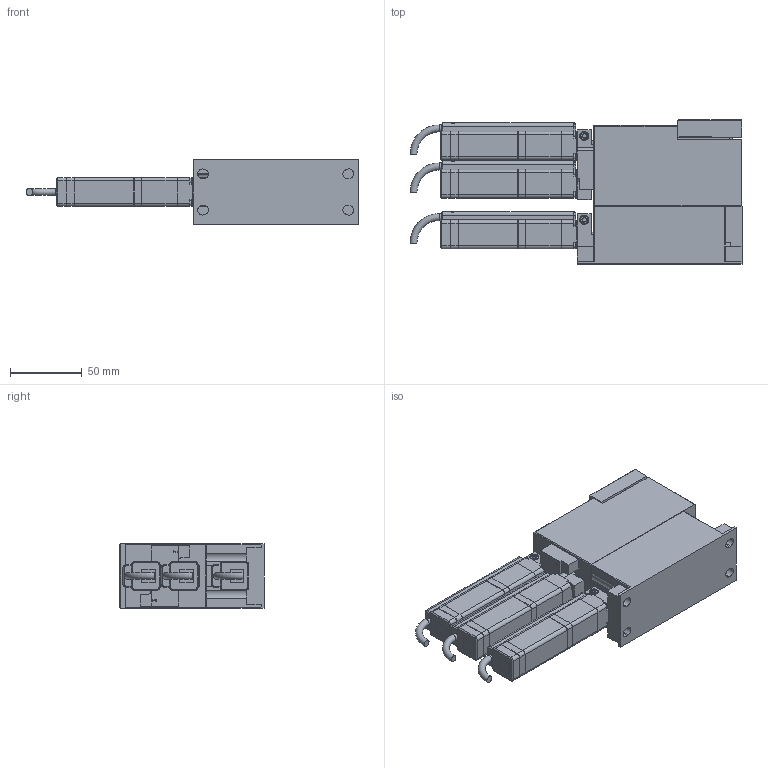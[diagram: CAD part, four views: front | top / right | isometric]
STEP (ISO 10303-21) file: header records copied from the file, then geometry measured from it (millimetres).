
FILE_DESCRIPTION((''),'1');
FILE_NAME('P1-L-H-I','2021-03-24T15:41:11',('JD'),('Luminos'),'Spatial Interop R20 SP1','Kubotek KeyCreator V9.0.3 (16864)',' ');
FILE_SCHEMA(('automotive_design'));
Length unit declared in the file: inch
Products named in the file (2): 1; 2
Bounding box: 230.57 x 100.08 x 44.45 mm (x, y, z)
Volume: 593163.2 mm3; surface area: 88695.8 mm2
Topology: 2 solids, 2 shells, 1404 faces, 3436 edges, 2139 vertices
Faces by surface type: plane 857, cone 261, cylinder 235, torus 51
Full cylindrical faces by diameter (mm): 1.626 x2, 2.261 x25, 3.5 x12, 3.8 x12, 4.4 x6, 4.648 x8, 4.762 x6, 4.775 x2, 4.826 x3, 5.74 x3, 6.35 x3, 7.144 x1, 9.5 x2, 9.525 x1, 12.7 x3
Entity records: 73648 total; most frequent: CARTESIAN_POINT 8649, DIRECTION 6638, ORIENTED_EDGE 6426, PRESENTATION_STYLE_ASSIGNMENT 6025, COLOUR_RGB 6025, STYLED_ITEM 4619, CURVE_STYLE 4619, DRAUGHTING_PRE_DEFINED_CURVE_FONT 4619
